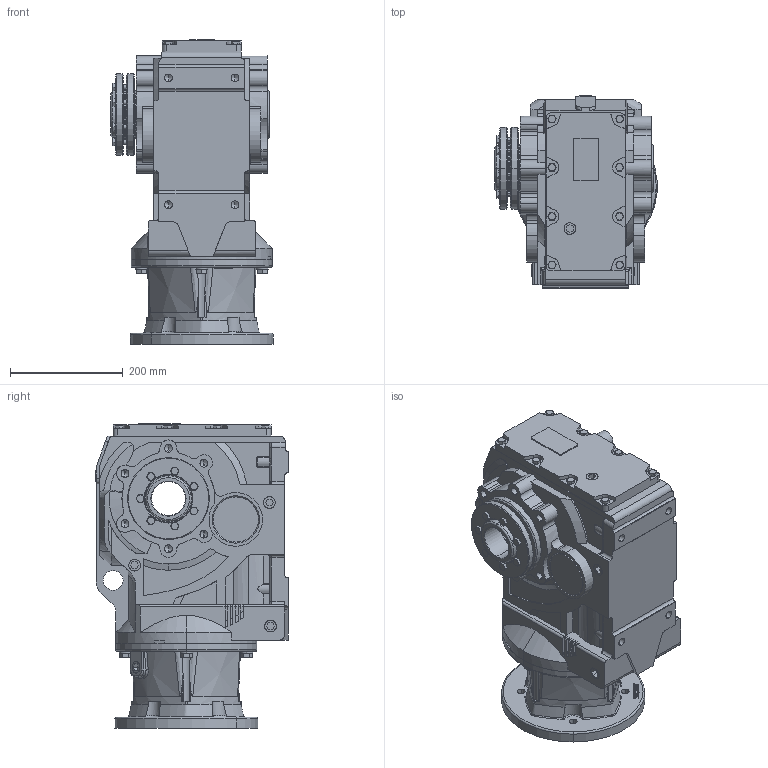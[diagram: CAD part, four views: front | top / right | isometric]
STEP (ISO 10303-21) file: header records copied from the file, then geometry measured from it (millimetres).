
FILE_DESCRIPTION (( 'STEP AP203' ), '1' );
FILE_NAME ('KAN87-254TC-B-POWER LOCK.STEP', '2020-11-25T03:10:57', ( 'Microsoft' ), ( 'Microsoft' ), 'SwSTEP 2.0', 'SolidWorks 2012', '' );
FILE_SCHEMA (( 'CONFIG_CONTROL_DESIGN' ));
Products named in the file (1): KAN87-254TC-B-POWER LOCK
Bounding box: 287.52 x 340.5 x 540.5 mm (x, y, z)
Volume: 25362020.4 mm3; surface area: 1051596.9 mm2
Topology: 2 solids, 23 shells, 1716 faces, 4407 edges, 2797 vertices
Faces by surface type: plane 691, cylinder 495, cone 325, bspline 142, torus 63
Entity records: 63762 total; most frequent: CARTESIAN_POINT 22885, ORIENTED_EDGE 8674, DIRECTION 8227, EDGE_CURVE 4337, AXIS2_PLACEMENT_3D 3035, VERTEX_POINT 2797, LINE 2157, VECTOR 2157
